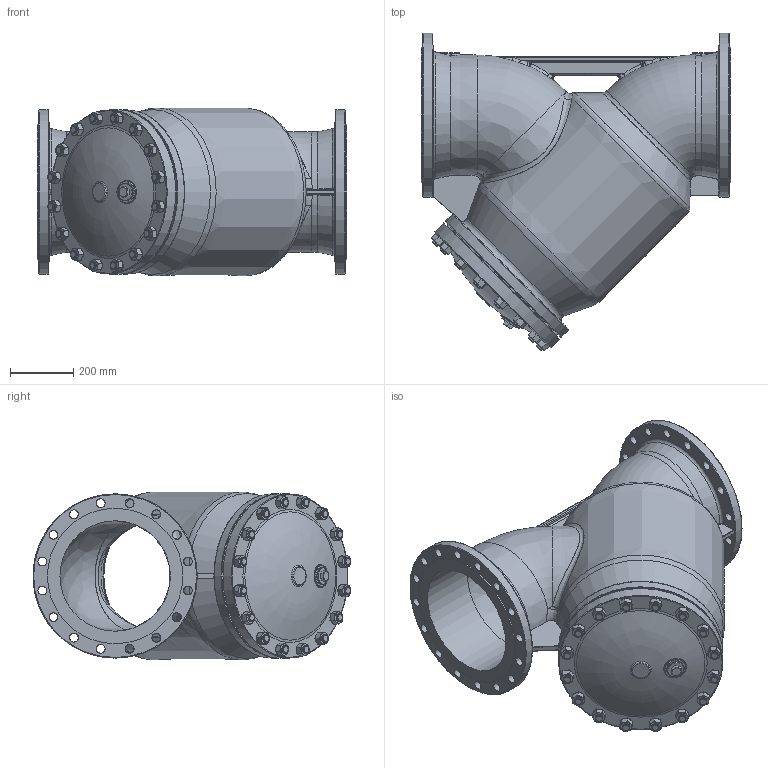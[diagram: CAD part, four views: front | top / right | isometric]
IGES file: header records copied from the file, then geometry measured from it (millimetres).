
Start section: SolidWorks IGES file using analytic representation for surfaces
Global section: file name: E:\SOLID WORKS 98\821\821_DN350_PN16.IGS; native system: SolidWorks 2014; preprocessor: SolidWorks 2014; author: alisowsk; date: 180425.115537; units: millimetre
Bounding box: 980 x 1006.91 x 531.94 mm (x, y, z)
Surface area: 4874729.5 mm2 (no closed solid volume)
Topology: 0 solids, 0 shells, 1041 faces, 4701 edges, 4334 vertices
Faces by surface type: revolution 573, bspline 468
